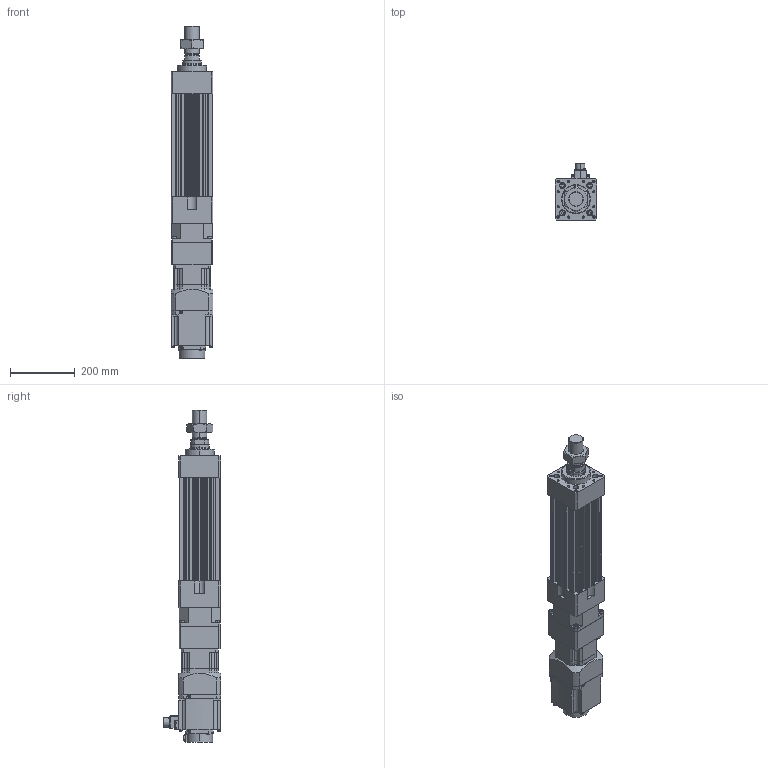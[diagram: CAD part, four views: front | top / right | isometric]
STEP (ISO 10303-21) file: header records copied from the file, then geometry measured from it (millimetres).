
FILE_DESCRIPTION (( 'STEP AP203' ), '1' );
FILE_NAME ('HES130NS(FS)(HS)-S100-W015G00-M.STEP', '2023-01-30T07:47:57', ( 'tms' ), ( '' ), 'SwSTEP 2.0', 'SolidWorks 2013', '' );
FILE_SCHEMA (( 'CONFIG_CONTROL_DESIGN' ));
Length unit declared in the file: millimetre
Products named in the file (8): P0401400706; HES130NS(FS)(HS)-S100-W015G00-M; M45X1.5P; HES130 ROD M ST100; HES130-S100-G120; AB115-003[HG-SR152]; AB1151; HG-SR152
Assembly tree (7 placements, depth 3):
  HES130NS(FS)(HS)-S100-W015G00-M
    HES130-S100-G120
    HES130 ROD M ST100
    M45X1.5P
    AB115-003[HG-SR152]
      AB1151
      P0401400706
    HG-SR152
Bounding box: 130 x 177.49 x 1029.5 mm (x, y, z)
Volume: 7947981.6 mm3; surface area: 962644.1 mm2
Topology: 4 solids, 15 shells, 1220 faces, 3076 edges, 1983 vertices
Faces by surface type: cylinder 553, plane 551, cone 104, bspline 8, torus 4
Entity records: 38254 total; most frequent: CARTESIAN_POINT 7242, DIRECTION 6653, ORIENTED_EDGE 6060, EDGE_CURVE 3040, AXIS2_PLACEMENT_3D 2462, VERTEX_POINT 1983, VECTOR 1729, LINE 1729
